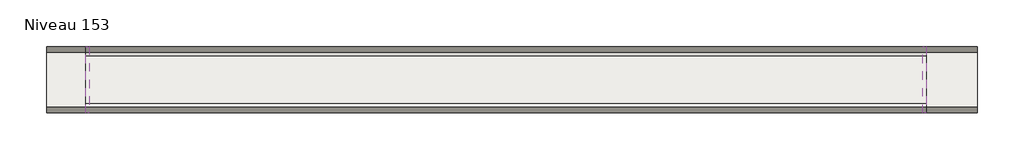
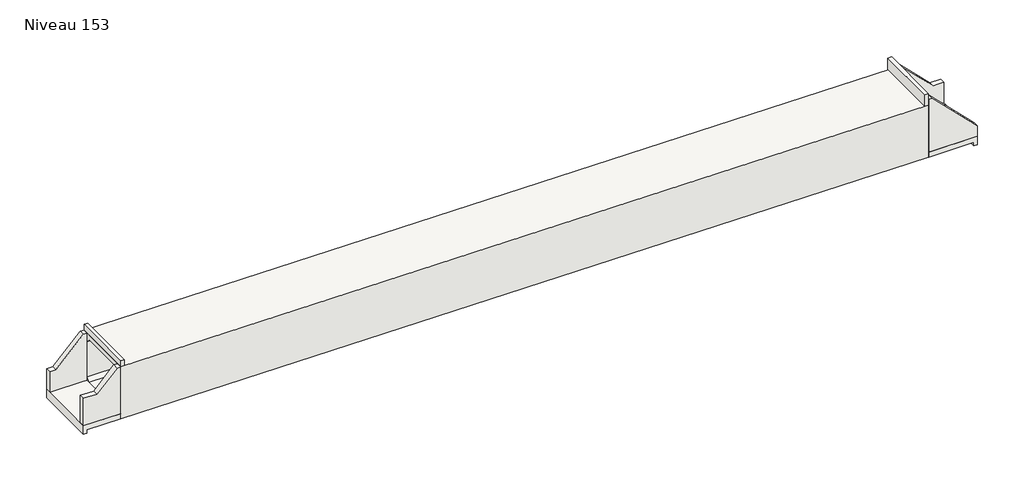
# One storey: 9 slabs.
"""IFC4 building model written with IfcOpenShell, lengths in millimetres."""

from ifc_helpers import new_model, si_unit, origin, place, context, project, spatial, transform, mapped, element, save
from components import slab_09aafc54, slab_914b3484, slab_a3fdfd9a, slab_73a98c7a, slab_a0106eee, slab_f753cc61, slab_a04cbf1a, slab_52576638, cadre_cadre_8078ba86

model = new_model("IFC4")

# Units and contexts
model_context = context("Model", 3, world=origin())
ifc_project = project(units=[si_unit("LENGTHUNIT", "METRE", prefix="MILLI")], contexts=[model_context])

# Site, building, storey
site = spatial("IfcSite", under=ifc_project)
building = spatial("IfcBuilding", under=site)
storey = spatial("IfcBuildingStorey", under=building, Name="Niveau 153", Elevation=153000.0)

# Slabs
placement = place(None, origin())
slab_shape = slab_09aafc54(model_context)
element("IfcSlab", 1, ObjectType="Radier Amont : Radier Amont", at=placement, inside=storey, context=model_context, shape_type="MappedRepresentation", body=[
    mapped(slab_shape, transform((0.0, 0.0, 0.0), x_axis=(1.0, 0.0, 0.0), y_axis=(0.0, 1.0, 0.0), z_axis=(0.0, 0.0, 1.0))),
])
slab_2_shape = slab_914b3484(model_context)
element("IfcSlab", 2, ObjectType="Radier Aval : Radier Aval", at=placement, inside=storey, context=model_context, shape_type="MappedRepresentation", body=[
    mapped(slab_2_shape, transform((0.0, 0.0, 0.0), x_axis=(1.0, 0.0, 0.0), y_axis=(0.0, 1.0, 0.0), z_axis=(0.0, 0.0, 1.0))),
])
slab_3_shape = slab_a3fdfd9a(model_context)
element("IfcSlab", 3, ObjectType="Longrine Amont : Longrine Amont", at=placement, inside=storey, context=model_context, shape_type="MappedRepresentation", body=[
    mapped(slab_3_shape, transform((0.0, 0.0, 0.0), x_axis=(1.0, 0.0, 0.0), y_axis=(0.0, 1.0, 0.0), z_axis=(0.0, 0.0, 1.0))),
])
slab_4_shape = slab_73a98c7a(model_context)
element("IfcSlab", 4, ObjectType="Longrine Aval : Longrine Aval", at=placement, inside=storey, context=model_context, shape_type="MappedRepresentation", body=[
    mapped(slab_4_shape, transform((0.0, 0.0, 0.0), x_axis=(1.0, 0.0, 0.0), y_axis=(0.0, 1.0, 0.0), z_axis=(0.0, 0.0, 1.0))),
])
slab_5_shape = slab_a0106eee(model_context)
element("IfcSlab", 5, ObjectType="Mur Amont : Mur Amont", at=placement, inside=storey, context=model_context, shape_type="MappedRepresentation", body=[
    mapped(slab_5_shape, transform((0.0, 0.0, 0.0), x_axis=(1.0, 0.0, 0.0), y_axis=(0.0, 1.0, 0.0), z_axis=(0.0, 0.0, 1.0))),
])
slab_6_shape = slab_f753cc61(model_context)
element("IfcSlab", 6, ObjectType="Mur 2 Amont : Mur 2 Amont", at=placement, inside=storey, context=model_context, shape_type="MappedRepresentation", body=[
    mapped(slab_6_shape, transform((0.0, 0.0, 0.0), x_axis=(1.0, 0.0, 0.0), y_axis=(0.0, 1.0, 0.0), z_axis=(0.0, 0.0, 1.0))),
])
slab_7_shape = slab_a04cbf1a(model_context)
element("IfcSlab", 7, ObjectType="Mur Sud Aval : Mur Sud Aval", at=placement, inside=storey, context=model_context, shape_type="MappedRepresentation", body=[
    mapped(slab_7_shape, transform((0.0, 0.0, 0.0), x_axis=(1.0, 0.0, 0.0), y_axis=(0.0, 1.0, 0.0), z_axis=(0.0, 0.0, 1.0))),
])
slab_8_shape = slab_52576638(model_context)
element("IfcSlab", 8, ObjectType="Mur Nord Aval : Mur Nord Aval", at=placement, inside=storey, context=model_context, shape_type="MappedRepresentation", body=[
    mapped(slab_8_shape, transform((0.0, 0.0, 0.0), x_axis=(1.0, 0.0, 0.0), y_axis=(0.0, 1.0, 0.0), z_axis=(0.0, 0.0, 1.0))),
])
cadre_cadre_shape = cadre_cadre_8078ba86(model_context)
element("IfcSlab", 9, ObjectType="Cadre : Cadre", at=placement, inside=storey, context=model_context, shape_type="MappedRepresentation", body=[
    mapped(cadre_cadre_shape, transform((0.0, 0.0, 0.0), x_axis=(1.0, 0.0, 0.0), y_axis=(0.0, 1.0, 0.0), z_axis=(0.0, 0.0, 1.0))),
])

save(model, "model.ifc")
